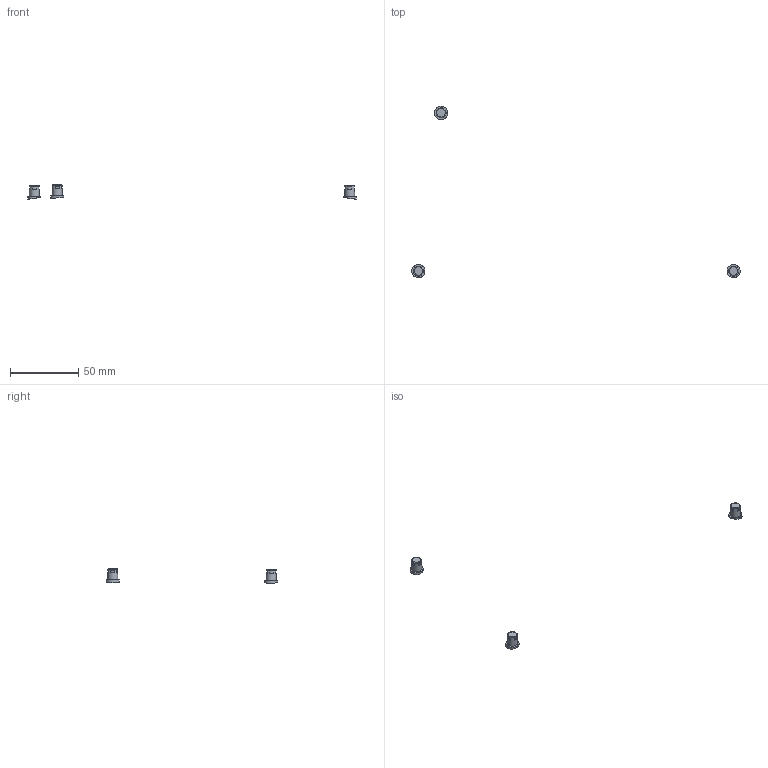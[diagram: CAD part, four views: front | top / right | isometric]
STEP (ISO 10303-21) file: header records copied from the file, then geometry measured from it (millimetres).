
FILE_DESCRIPTION(/* description */ ('','CAx-IF Rec.Pracs.---Representation and Presentation of Product Manufacturing Information (PMI)---4.0---2014-10-13'),/* implementation_level */ '2;1');
FILE_NAME(/* name */ '20vosperscrewvents.step',/* time_stamp */ '2025-03-24T19:05:58+11:00',/* author */ (''),/* organization */ (''),/* preprocessor_version */ 'ST-DEVELOPER v20',/* originating_system */ 'Autodesk Translation Framework v13.20.0.188',/* authorisation */ '');
FILE_SCHEMA (('AP242_MANAGED_MODEL_BASED_3D_ENGINEERING_MIM_LF { 1 0 10303 442 1 1 4 }'));
Length unit declared in the file: millimetre
Products named in the file (1): 20scaleVosperDeckStuff
Bounding box: 240.73 x 125.7 x 10.61 mm (x, y, z)
Volume: 1257.8 mm3; surface area: 1221.7 mm2
Topology: 3 solids, 3 shells, 78 faces, 180 edges, 120 vertices
Faces by surface type: plane 54, cylinder 18, bspline 3, torus 3
Full cylindrical faces by diameter (mm): 7.264 x3, 9.685 x3
Entity records: 2855 total; most frequent: CARTESIAN_POINT 988, DIRECTION 395, ORIENTED_EDGE 360, EDGE_CURVE 180, AXIS2_PLACEMENT_3D 145, VERTEX_POINT 120, LINE 105, VECTOR 105
